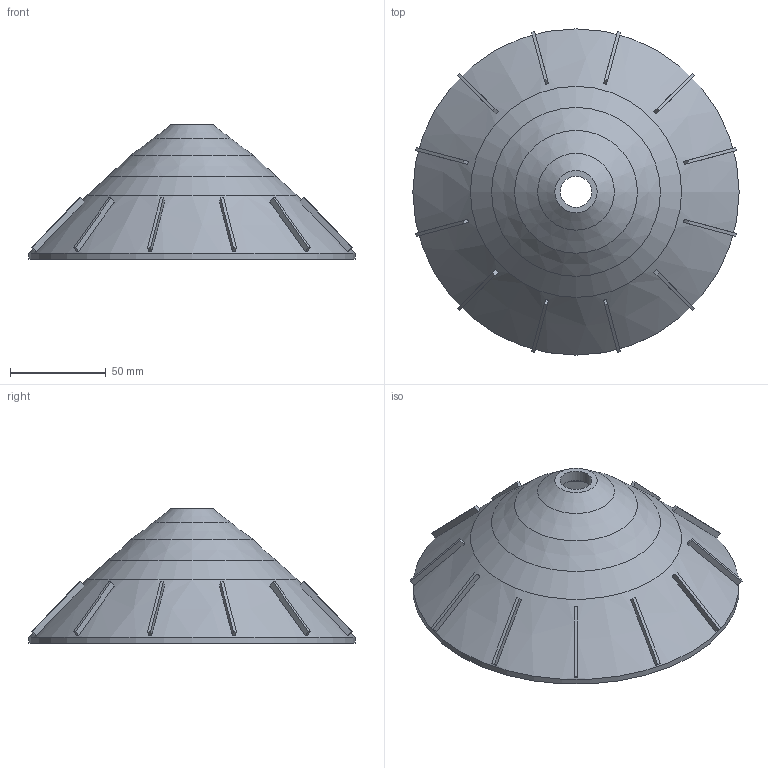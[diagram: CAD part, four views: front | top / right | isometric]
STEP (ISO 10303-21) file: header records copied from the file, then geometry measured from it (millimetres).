
FILE_DESCRIPTION(('Open CASCADE Model'),'2;1');
FILE_NAME('Open CASCADE Shape Model','2026-10-20T19:46:47',('Author'),( 'Open CASCADE'),'Open CASCADE STEP processor 8.0','build123d', 'Unknown');
FILE_SCHEMA(('AUTOMOTIVE_DESIGN { 1 0 10303 214 1 1 1 1 }'));
Length unit declared in the file: millimetre
Products named in the file (2): =>[0:1:1:2]; COMPOUND
Assembly tree (1 placements, depth 2):
  =>[0:1:1:2]
    COMPOUND
Bounding box: 170 x 170 x 70 mm (x, y, z)
Volume: 78594.6 mm3; surface area: 67269.4 mm2
Topology: 1 solids, 1 shells, 77 faces, 175 edges, 113 vertices
Faces by surface type: plane 63, cone 10, cylinder 4
Full cylindrical faces by diameter (mm): 16.3 x1, 22 x1, 165.2 x1, 170 x1
Entity records: 4617 total; most frequent: CARTESIAN_POINT 1077, DIRECTION 652, LINE 358, VECTOR 358, ORIENTED_EDGE 350, PCURVE 350, DEFINITIONAL_REPRESENTATION 350, EDGE_CURVE 175
